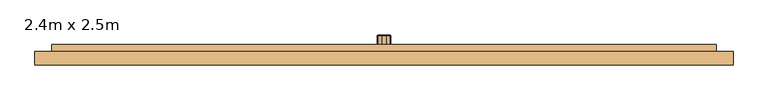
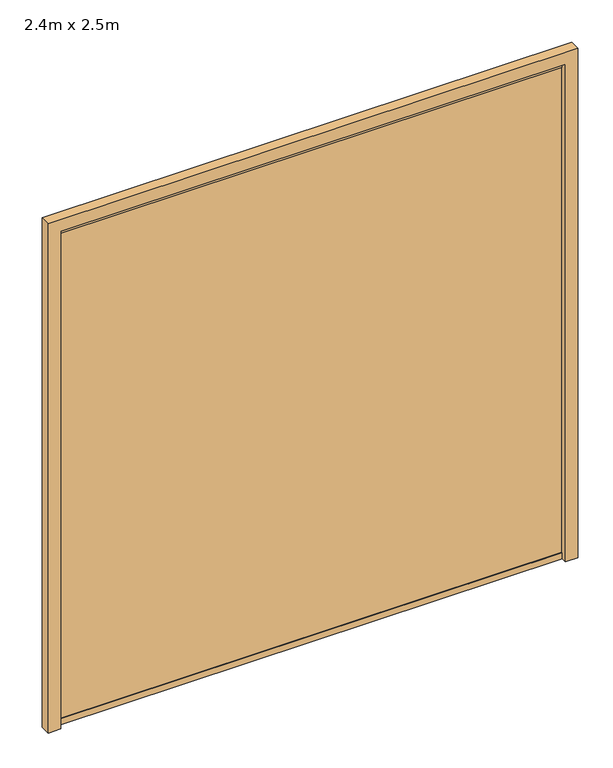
"""IFC4 building model written with IfcOpenShell, lengths in millimetres: door geometry, 2.4m x 2.5m."""

from ifc_helpers import new_model, si_unit, frame, origin, place, context, project, spatial, polyline, outline, extrude, faceted_brep, source, transform, mapped, element, save


def door_2_4m_x_2_5m_48a8a7c6(model_context):
    return source(origin(), model_context, "Body", "SolidModel", [
        extrude(outline(polyline([(0.0, -45.0), (0.0, 15.0), (2500.0, 15.0), (2500.0, 2415.0), (0.0, 2415.0), (0.0, 2475.0), (2560.0, 2475.0), (2560.0, -45.0), (0.0, -45.0)])), frame((0.0, -550.0, 0.0), z_axis=(0.0, 1.0, 0.0), x_axis=(0.0, 0.0, 1.0)), (0.0, 0.0, 1.0), 50.0),
        faceted_brep([(15.0, -525.0, 2500.0), (2415.0, -525.0, 2500.0), (2415.0, -475.0, 2500.0), (15.0, -475.0, 2500.0), (2415.0, -525.0, 0.0), (15.0, -525.0, 0.0), (15.0, -475.0, 0.0), (2415.0, -475.0, 0.0), (2347.5806452, -490.0, 2470.0), (2347.5806452, -490.0, 30.0), (2327.5806452, -490.0, 30.0), (2327.5806452, -490.0, 2470.0), (2327.5806452, -480.0, 30.0), (2327.5806452, -480.0, 2470.0), (2270.1612903, -480.0, 30.0), (2270.1612903, -480.0, 2470.0), (2270.1612903, -490.0, 30.0), (2270.1612903, -490.0, 2470.0), (2250.1612903, -490.0, 30.0), (2250.1612903, -490.0, 2470.0), (2250.1612903, -480.0, 30.0), (2250.1612903, -480.0, 2470.0), (2192.7419355, -480.0, 30.0), (2192.7419355, -480.0, 2470.0), (2192.7419355, -490.0, 30.0), (2192.7419355, -490.0, 2470.0), (2172.7419355, -490.0, 30.0), (2172.7419355, -490.0, 2470.0), (2172.7419355, -480.0, 30.0), (2172.7419355, -480.0, 2470.0), (2115.3225806, -480.0, 30.0), (2115.3225806, -480.0, 2470.0), (2115.3225806, -490.0, 30.0), (2115.3225806, -490.0, 2470.0), (2095.3225806, -490.0, 30.0), (2095.3225806, -490.0, 2470.0), (2095.3225806, -480.0, 30.0), (2095.3225806, -480.0, 2470.0), (2037.9032258, -480.0, 30.0), (2037.9032258, -480.0, 2470.0), (2037.9032258, -490.0, 30.0), (2037.9032258, -490.0, 2470.0), (2017.9032258, -490.0, 30.0), (2017.9032258, -490.0, 2470.0), (2017.9032258, -480.0, 30.0), (2017.9032258, -480.0, 2470.0), (1960.483871, -480.0, 30.0), (1960.483871, -480.0, 2470.0), (1960.483871, -490.0, 30.0), (1960.483871, -490.0, 2470.0), (1940.483871, -490.0, 30.0), (1940.483871, -490.0, 2470.0), (1940.483871, -480.0, 30.0), (1940.483871, -480.0, 2470.0), (1883.0645161, -480.0, 30.0), (1883.0645161, -480.0, 2470.0), (1883.0645161, -490.0, 30.0), (1883.0645161, -490.0, 2470.0), (1863.0645161, -490.0, 30.0), (1863.0645161, -490.0, 2470.0), (1863.0645161, -480.0, 30.0), (1863.0645161, -480.0, 2470.0), (1805.6451613, -480.0, 30.0), (1805.6451613, -480.0, 2470.0), (1805.6451613, -490.0, 30.0), (1805.6451613, -490.0, 2470.0), (1785.6451613, -490.0, 30.0), (1785.6451613, -490.0, 2470.0), (1785.6451613, -480.0, 30.0), (1785.6451613, -480.0, 2470.0), (1728.2258065, -480.0, 30.0), (1728.2258065, -480.0, 2470.0), (1728.2258065, -490.0, 30.0), (1728.2258065, -490.0, 2470.0), (1708.2258065, -490.0, 30.0), (1708.2258065, -490.0, 2470.0), (1708.2258065, -480.0, 30.0), (1708.2258065, -480.0, 2470.0), (1650.8064516, -480.0, 30.0), (1650.8064516, -480.0, 2470.0), (1650.8064516, -490.0, 30.0), (1650.8064516, -490.0, 2470.0), (1630.8064516, -490.0, 30.0), (1630.8064516, -490.0, 2470.0), (1630.8064516, -480.0, 30.0), (1630.8064516, -480.0, 2470.0), (1573.3870968, -480.0, 30.0), (1573.3870968, -480.0, 2470.0), (1573.3870968, -490.0, 30.0), (1573.3870968, -490.0, 2470.0), (1553.3870968, -490.0, 30.0), (1553.3870968, -490.0, 2470.0), (1553.3870968, -480.0, 30.0), (1553.3870968, -480.0, 2470.0), (1495.9677419, -480.0, 30.0), (1495.9677419, -480.0, 2470.0), (1495.9677419, -490.0, 30.0), (1495.9677419, -490.0, 2470.0), (1475.9677419, -490.0, 30.0), (1475.9677419, -490.0, 2470.0), (1475.9677419, -480.0, 30.0), (1475.9677419, -480.0, 2470.0), (1418.5483871, -480.0, 30.0), (1418.5483871, -480.0, 2470.0), (1418.5483871, -490.0, 30.0), (1418.5483871, -490.0, 2470.0), (1398.5483871, -490.0, 30.0), (1398.5483871, -490.0, 2470.0), (1398.5483871, -480.0, 30.0), (1398.5483871, -480.0, 2470.0), (1341.1290323, -480.0, 30.0), (1341.1290323, -480.0, 2470.0), (1341.1290323, -490.0, 30.0), (1341.1290323, -490.0, 2470.0), (1321.1290323, -490.0, 30.0), (1321.1290323, -490.0, 2470.0), (1321.1290323, -480.0, 30.0), (1321.1290323, -480.0, 2470.0), (1263.7096774, -480.0, 30.0), (1263.7096774, -480.0, 2470.0), (1263.7096774, -490.0, 30.0), (1263.7096774, -490.0, 2470.0), (1243.7096774, -490.0, 30.0), (1243.7096774, -490.0, 2470.0), (1243.7096774, -480.0, 30.0), (1243.7096774, -480.0, 2470.0), (1186.2903226, -480.0, 30.0), (1186.2903226, -480.0, 2470.0), (1186.2903226, -490.0, 30.0), (1186.2903226, -490.0, 2470.0), (1166.2903226, -490.0, 30.0), (1166.2903226, -490.0, 2470.0), (1166.2903226, -480.0, 30.0), (1166.2903226, -480.0, 2470.0), (1108.8709677, -480.0, 30.0), (1108.8709677, -480.0, 2470.0), (1108.8709677, -490.0, 30.0), (1108.8709677, -490.0, 2470.0), (1088.8709677, -490.0, 30.0), (1088.8709677, -490.0, 2470.0), (1088.8709677, -480.0, 30.0), (1088.8709677, -480.0, 2470.0), (1031.4516129, -480.0, 30.0), (1031.4516129, -480.0, 2470.0), (1031.4516129, -490.0, 30.0), (1031.4516129, -490.0, 2470.0), (1011.4516129, -490.0, 30.0), (1011.4516129, -490.0, 2470.0), (1011.4516129, -480.0, 30.0), (1011.4516129, -480.0, 2470.0), (954.0322581, -480.0, 30.0), (954.0322581, -480.0, 2470.0), (954.0322581, -490.0, 30.0), (954.0322581, -490.0, 2470.0), (934.0322581, -490.0, 30.0), (934.0322581, -490.0, 2470.0), (934.0322581, -480.0, 30.0), (934.0322581, -480.0, 2470.0), (876.6129032, -480.0, 30.0), (876.6129032, -480.0, 2470.0), (876.6129032, -490.0, 30.0), (876.6129032, -490.0, 2470.0), (856.6129032, -490.0, 30.0), (856.6129032, -490.0, 2470.0), (856.6129032, -480.0, 30.0), (856.6129032, -480.0, 2470.0), (799.1935484, -480.0, 30.0), (799.1935484, -480.0, 2470.0), (799.1935484, -490.0, 30.0), (799.1935484, -490.0, 2470.0), (779.1935484, -490.0, 30.0), (779.1935484, -490.0, 2470.0), (779.1935484, -480.0, 30.0), (779.1935484, -480.0, 2470.0), (721.7741935, -480.0, 30.0), (721.7741935, -480.0, 2470.0), (721.7741935, -490.0, 30.0), (721.7741935, -490.0, 2470.0), (701.7741935, -490.0, 30.0), (701.7741935, -490.0, 2470.0), (701.7741935, -480.0, 30.0), (701.7741935, -480.0, 2470.0), (644.3548387, -480.0, 30.0), (644.3548387, -480.0, 2470.0), (644.3548387, -490.0, 30.0), (644.3548387, -490.0, 2470.0), (624.3548387, -490.0, 30.0), (624.3548387, -490.0, 2470.0), (624.3548387, -480.0, 30.0), (624.3548387, -480.0, 2470.0), (566.9354839, -480.0, 30.0), (566.9354839, -480.0, 2470.0), (566.9354839, -490.0, 30.0), (566.9354839, -490.0, 2470.0), (546.9354839, -490.0, 30.0), (546.9354839, -490.0, 2470.0), (546.9354839, -480.0, 30.0), (546.9354839, -480.0, 2470.0), (489.516129, -480.0, 30.0), (489.516129, -480.0, 2470.0), (489.516129, -490.0, 30.0), (489.516129, -490.0, 2470.0), (469.516129, -490.0, 30.0), (469.516129, -490.0, 2470.0), (469.516129, -480.0, 30.0), (469.516129, -480.0, 2470.0), (412.0967742, -480.0, 30.0), (412.0967742, -480.0, 2470.0), (412.0967742, -490.0, 30.0), (412.0967742, -490.0, 2470.0), (392.0967742, -490.0, 30.0), (392.0967742, -490.0, 2470.0), (392.0967742, -480.0, 30.0), (392.0967742, -480.0, 2470.0), (334.6774194, -480.0, 30.0), (334.6774194, -480.0, 2470.0), (334.6774194, -490.0, 30.0), (334.6774194, -490.0, 2470.0), (314.6774194, -490.0, 30.0), (314.6774194, -490.0, 2470.0), (314.6774194, -480.0, 30.0), (314.6774194, -480.0, 2470.0), (257.2580645, -480.0, 30.0), (257.2580645, -480.0, 2470.0), (257.2580645, -490.0, 30.0), (257.2580645, -490.0, 2470.0), (237.2580645, -490.0, 30.0), (237.2580645, -490.0, 2470.0), (237.2580645, -480.0, 30.0), (237.2580645, -480.0, 2470.0), (179.8387097, -480.0, 30.0), (179.8387097, -480.0, 2470.0), (179.8387097, -490.0, 30.0), (179.8387097, -490.0, 2470.0), (159.8387097, -490.0, 30.0), (159.8387097, -490.0, 2470.0), (159.8387097, -480.0, 30.0), (159.8387097, -480.0, 2470.0), (102.4193548, -480.0, 30.0), (102.4193548, -480.0, 2470.0), (102.4193548, -490.0, 30.0), (102.4193548, -490.0, 2470.0), (82.4193548, -490.0, 30.0), (82.4193548, -490.0, 2470.0), (82.4193548, -480.0, 30.0), (82.4193548, -480.0, 2470.0), (15.0, -480.0, 30.0), (15.0, -480.0, 2470.0), (15.0, -475.0, 2470.0), (15.0, -475.0, 30.0), (15.0, -525.0, 30.0), (15.0, -520.0, 30.0), (15.0, -520.0, 2470.0), (15.0, -525.0, 2470.0), (2415.0, -520.0, 30.0), (2415.0, -520.0, 2470.0), (2415.0, -525.0, 2470.0), (2415.0, -525.0, 30.0), (2415.0, -475.0, 30.0), (2415.0, -480.0, 30.0), (2415.0, -480.0, 2470.0), (2415.0, -475.0, 2470.0), (2347.5806452, -480.0, 30.0), (2347.5806452, -480.0, 2470.0)], [[[0, 1, 2, 3]], [[4, 5, 6, 7]], [[8, 9, 10, 11]], [[11, 10, 12, 13]], [[13, 12, 14, 15]], [[15, 14, 16, 17]], [[17, 16, 18, 19]], [[19, 18, 20, 21]], [[21, 20, 22, 23]], [[23, 22, 24, 25]], [[25, 24, 26, 27]], [[27, 26, 28, 29]], [[29, 28, 30, 31]], [[31, 30, 32, 33]], [[33, 32, 34, 35]], [[35, 34, 36, 37]], [[37, 36, 38, 39]], [[39, 38, 40, 41]], [[41, 40, 42, 43]], [[43, 42, 44, 45]], [[45, 44, 46, 47]], [[47, 46, 48, 49]], [[49, 48, 50, 51]], [[51, 50, 52, 53]], [[53, 52, 54, 55]], [[55, 54, 56, 57]], [[57, 56, 58, 59]], [[59, 58, 60, 61]], [[61, 60, 62, 63]], [[63, 62, 64, 65]], [[65, 64, 66, 67]], [[67, 66, 68, 69]], [[69, 68, 70, 71]], [[71, 70, 72, 73]], [[73, 72, 74, 75]], [[75, 74, 76, 77]], [[77, 76, 78, 79]], [[79, 78, 80, 81]], [[81, 80, 82, 83]], [[83, 82, 84, 85]], [[85, 84, 86, 87]], [[87, 86, 88, 89]], [[89, 88, 90, 91]], [[91, 90, 92, 93]], [[93, 92, 94, 95]], [[95, 94, 96, 97]], [[97, 96, 98, 99]], [[99, 98, 100, 101]], [[101, 100, 102, 103]], [[103, 102, 104, 105]], [[105, 104, 106, 107]], [[107, 106, 108, 109]], [[109, 108, 110, 111]], [[111, 110, 112, 113]], [[113, 112, 114, 115]], [[115, 114, 116, 117]], [[117, 116, 118, 119]], [[119, 118, 120, 121]], [[121, 120, 122, 123]], [[123, 122, 124, 125]], [[125, 124, 126, 127]], [[127, 126, 128, 129]], [[129, 128, 130, 131]], [[131, 130, 132, 133]], [[133, 132, 134, 135]], [[135, 134, 136, 137]], [[137, 136, 138, 139]], [[139, 138, 140, 141]], [[141, 140, 142, 143]], [[143, 142, 144, 145]], [[145, 144, 146, 147]], [[147, 146, 148, 149]], [[149, 148, 150, 151]], [[151, 150, 152, 153]], [[153, 152, 154, 155]], [[155, 154, 156, 157]], [[157, 156, 158, 159]], [[159, 158, 160, 161]], [[161, 160, 162, 163]], [[163, 162, 164, 165]], [[165, 164, 166, 167]], [[167, 166, 168, 169]], [[169, 168, 170, 171]], [[171, 170, 172, 173]], [[173, 172, 174, 175]], [[175, 174, 176, 177]], [[177, 176, 178, 179]], [[179, 178, 180, 181]], [[181, 180, 182, 183]], [[183, 182, 184, 185]], [[185, 184, 186, 187]], [[187, 186, 188, 189]], [[189, 188, 190, 191]], [[191, 190, 192, 193]], [[193, 192, 194, 195]], [[195, 194, 196, 197]], [[197, 196, 198, 199]], [[199, 198, 200, 201]], [[201, 200, 202, 203]], [[203, 202, 204, 205]], [[205, 204, 206, 207]], [[207, 206, 208, 209]], [[209, 208, 210, 211]], [[211, 210, 212, 213]], [[213, 212, 214, 215]], [[215, 214, 216, 217]], [[217, 216, 218, 219]], [[219, 218, 220, 221]], [[221, 220, 222, 223]], [[223, 222, 224, 225]], [[225, 224, 226, 227]], [[227, 226, 228, 229]], [[229, 228, 230, 231]], [[231, 230, 232, 233]], [[233, 232, 234, 235]], [[235, 234, 236, 237]], [[237, 236, 238, 239]], [[239, 238, 240, 241]], [[241, 240, 242, 243]], [[243, 242, 244, 245]], [[245, 244, 246, 247]], [[0, 3, 248, 247, 246, 249, 6, 5, 250, 251, 252, 253]], [[252, 251, 254, 255]], [[2, 1, 256, 255, 254, 257, 4, 7, 258, 259, 260, 261]], [[260, 259, 262, 263]], [[9, 8, 263, 262]], [[256, 253, 252, 255]], [[2, 261, 248, 3]], [[256, 1, 0, 253]], [[4, 257, 250, 5]], [[258, 7, 6, 249]], [[250, 257, 254, 251]], [[258, 249, 246, 244, 242, 240, 238, 236, 234, 232, 230, 228, 226, 224, 222, 220, 218, 216, 214, 212, 210, 208, 206, 204, 202, 200, 198, 196, 194, 192, 190, 188, 186, 184, 182, 180, 178, 176, 174, 172, 170, 168, 166, 164, 162, 160, 158, 156, 154, 152, 150, 148, 146, 144, 142, 140, 138, 136, 134, 132, 130, 128, 126, 124, 122, 120, 118, 116, 114, 112, 110, 108, 106, 104, 102, 100, 98, 96, 94, 92, 90, 88, 86, 84, 82, 80, 78, 76, 74, 72, 70, 68, 66, 64, 62, 60, 58, 56, 54, 52, 50, 48, 46, 44, 42, 40, 38, 36, 34, 32, 30, 28, 26, 24, 22, 20, 18, 16, 14, 12, 10, 9, 262, 259]], [[248, 261, 260, 263, 8, 11, 13, 15, 17, 19, 21, 23, 25, 27, 29, 31, 33, 35, 37, 39, 41, 43, 45, 47, 49, 51, 53, 55, 57, 59, 61, 63, 65, 67, 69, 71, 73, 75, 77, 79, 81, 83, 85, 87, 89, 91, 93, 95, 97, 99, 101, 103, 105, 107, 109, 111, 113, 115, 117, 119, 121, 123, 125, 127, 129, 131, 133, 135, 137, 139, 141, 143, 145, 147, 149, 151, 153, 155, 157, 159, 161, 163, 165, 167, 169, 171, 173, 175, 177, 179, 181, 183, 185, 187, 189, 191, 193, 195, 197, 199, 201, 203, 205, 207, 209, 211, 213, 215, 217, 219, 221, 223, 225, 227, 229, 231, 233, 235, 237, 239, 241, 243, 245, 247]]]),
        faceted_brep([(1194.7745751, -442.097912, 485.3053687), (1190.0, -442.097912, 500.0), (1192.097912, -440.0, 500.0), (1194.2848668, -440.0, 493.2692452), (1196.4718216, -440.0, 486.5384904), (1234.9390912, -440.0, 490.8808336), (1236.350004, -440.0, 495.2231768), (1237.902088, -440.0, 500.0), (1240.0, -442.097912, 500.0), (1235.2254249, -442.097912, 485.3053687), (1233.5281784, -440.0, 486.5384904), (1222.7254249, -442.097912, 476.2235871), (1222.0771344, -440.0, 478.21882), (1227.8026564, -440.0, 482.3786552), (1207.9228656, -440.0, 478.21882), (1215.0, -440.0, 478.21882), (1207.2745751, -442.097912, 476.2235871), (1202.1973436, -440.0, 482.3786552), (1235.2254249, -442.097912, 514.6946313), (1235.7151332, -440.0, 506.7307548), (1233.5281784, -440.0, 513.4615096), (1195.0609088, -440.0, 509.1191664), (1193.649996, -440.0, 504.7768232), (1194.7745751, -442.097912, 514.6946313), (1196.4718216, -440.0, 513.4615096), (1207.2745751, -442.097912, 523.7764129), (1207.9228656, -440.0, 521.78118), (1202.1973436, -440.0, 517.6213448), (1222.0771344, -440.0, 521.78118), (1215.0, -440.0, 521.78118), (1222.7254249, -442.097912, 523.7764129), (1227.8026564, -440.0, 517.6213448), (1215.0, -440.0, 500.0), (1215.0, -480.0, 500.0), (1194.7745751, -480.0, 485.3053687), (1201.0245751, -480.0, 480.7644779), (1207.2745751, -480.0, 476.2235871), (1215.0, -480.0, 476.2235871), (1193.0545454, -480.0, 490.5990759), (1191.5272727, -480.0, 495.2995379), (1190.0, -480.0, 500.0), (1222.7254249, -480.0, 476.2235871), (1228.9754249, -480.0, 480.7644779), (1235.2254249, -480.0, 485.3053687), (1237.6127124, -480.0, 492.6526843), (1240.0, -480.0, 500.0), (1238.4727273, -480.0, 504.7004621), (1192.3872876, -480.0, 507.3473157), (1194.7745751, -480.0, 514.6946313), (1201.0245751, -480.0, 519.2355221), (1207.2745751, -480.0, 523.7764129), (1236.9454546, -480.0, 509.4009241), (1235.2254249, -480.0, 514.6946313), (1228.9754249, -480.0, 519.2355221), (1222.7254249, -480.0, 523.7764129), (1215.0, -480.0, 523.7764129)], [[[0, 1, 2, 3, 4]], [[5, 6, 7, 8, 9, 10]], [[9, 11, 12, 13, 10]], [[14, 15, 12, 11, 16]], [[16, 0, 4, 17, 14]], [[18, 8, 7, 19, 20]], [[21, 22, 2, 1, 23, 24]], [[23, 25, 26, 27, 24]], [[28, 29, 26, 25, 30]], [[30, 18, 20, 31, 28]], [[32, 14, 17]], [[32, 17, 4]], [[32, 4, 3]], [[32, 3, 2]], [[32, 2, 22]], [[32, 15, 14]], [[32, 12, 15]], [[32, 13, 12]], [[32, 10, 13]], [[32, 5, 10]], [[32, 6, 5]], [[32, 7, 6]], [[32, 22, 21]], [[32, 21, 24]], [[32, 24, 27]], [[32, 27, 26]], [[32, 26, 29]], [[32, 19, 7]], [[32, 20, 19]], [[32, 31, 20]], [[32, 28, 31]], [[32, 29, 28]], [[33, 34, 35]], [[33, 35, 36]], [[33, 36, 37]], [[33, 38, 34]], [[33, 39, 38]], [[33, 40, 39]], [[33, 37, 41]], [[33, 41, 42]], [[33, 42, 43]], [[33, 43, 44]], [[33, 44, 45]], [[33, 45, 46]], [[33, 47, 40]], [[33, 48, 47]], [[33, 49, 48]], [[33, 50, 49]], [[33, 46, 51]], [[33, 51, 52]], [[33, 52, 53]], [[33, 53, 54]], [[33, 54, 55]], [[33, 55, 50]], [[9, 43, 42, 41, 11]], [[43, 9, 8, 45, 44]], [[38, 39, 40, 1, 0, 34]], [[16, 11, 41, 37, 36]], [[36, 35, 34, 0, 16]], [[48, 49, 50, 25, 23]], [[23, 1, 40, 47, 48]], [[51, 46, 45, 8, 18, 52]], [[30, 25, 50, 55, 54]], [[54, 53, 52, 18, 30]]]),
    ])


if __name__ == "__main__":
    model = new_model("IFC4")
    model_context = context("Model", 3, world=origin())
    ifc_project = project(units=[si_unit("LENGTHUNIT", "METRE", prefix="MILLI")], contexts=[model_context])
    site = spatial("IfcSite", under=ifc_project)
    building = spatial("IfcBuilding", under=site)
    placement = place(None, origin())
    door_2_4m_x_2_5m_shape = door_2_4m_x_2_5m_48a8a7c6(model_context)
    element("IfcDoor", 1, ObjectType="2.4m x 2.5m", at=placement, inside=building, context=model_context, shape_type="MappedRepresentation", body=[
        mapped(door_2_4m_x_2_5m_shape, transform((0.0, 0.0, 0.0), x_axis=(1.0, 0.0, 0.0), y_axis=(0.0, 1.0, 0.0), z_axis=(0.0, 0.0, 1.0))),
    ])
    save(model, "model.ifc")
